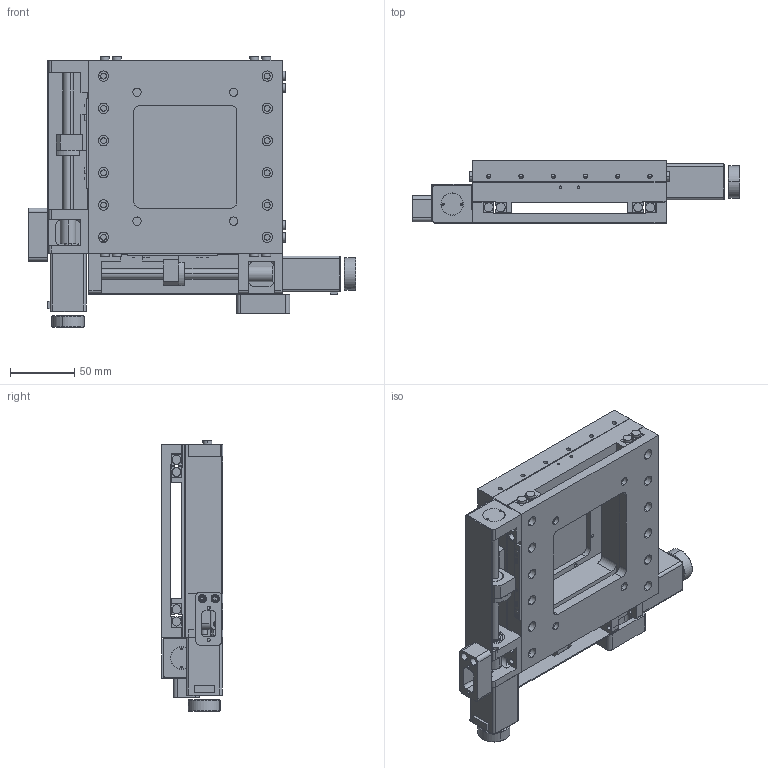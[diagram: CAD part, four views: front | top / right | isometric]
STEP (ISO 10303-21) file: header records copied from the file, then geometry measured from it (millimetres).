
FILE_DESCRIPTION (( 'STEP AP203' ), '1' );
FILE_NAME ('PT-XY50G.STEP', '2018-07-13T03:37:00', ( '' ), ( '' ), 'SwSTEP 2.0', 'SolidWorks 2016', '' );
FILE_SCHEMA (( 'CONFIG_CONTROL_DESIGN' ));
Length unit declared in the file: millimetre
Products named in the file (1): PT-XY50G
Bounding box: 254.3 x 48 x 209.8 mm (x, y, z)
Surface area: 260189.7 mm2 (no closed solid volume)
Topology: 0 solids, 49 shells, 793 faces, 2719 edges, 1966 vertices
Faces by surface type: cylinder 393, plane 369, torus 18, cone 9, bspline 4
Entity records: 30970 total; most frequent: CARTESIAN_POINT 6244, DIRECTION 5472, ORIENTED_EDGE 4387, EDGE_CURVE 2718, AXIS2_PLACEMENT_3D 2010, VERTEX_POINT 1966, LINE 1452, VECTOR 1452
